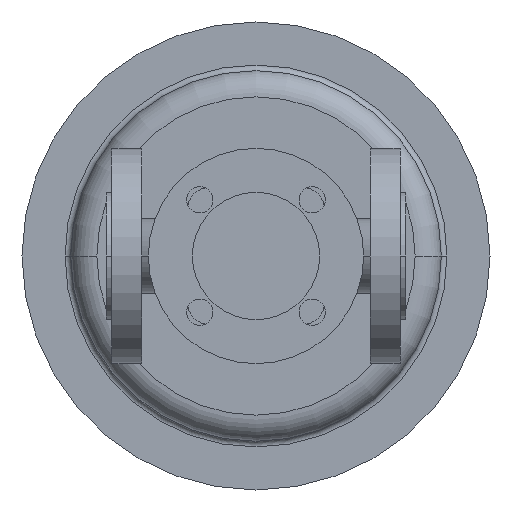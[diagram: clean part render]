
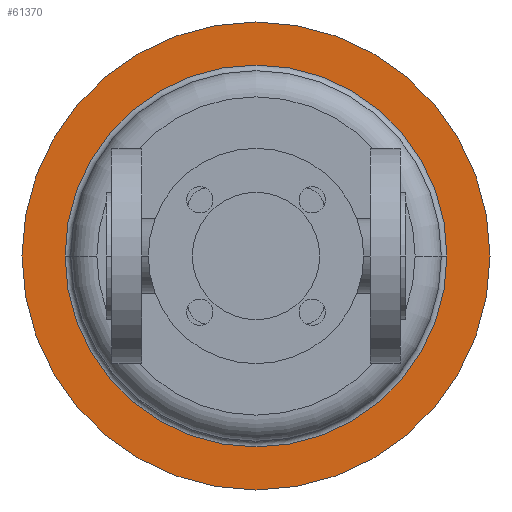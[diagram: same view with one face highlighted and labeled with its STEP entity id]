
A CAD part, front view. The second image highlights one B-rep face of the part: STEP entity #61370.
In plain terms, the highlighted planar face has unit normal (0, -1, 0).
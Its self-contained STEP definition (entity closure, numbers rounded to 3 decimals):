
#47450=CARTESIAN_POINT('',(-45.,572.,0.));
#47460=VERTEX_POINT('',#47450);
#47620=CARTESIAN_POINT('',(205.,572.,0.));
#47630=VERTEX_POINT('',#47620);
#47660=CARTESIAN_POINT('',(80.,572.,0.));
#47670=DIRECTION('',(0.,1.,0.));
#47680=DIRECTION('',(1.,0.,0.));
#47690=AXIS2_PLACEMENT_3D('',#47660,#47670,#47680);
#47700=CIRCLE('',#47690,125.);
#47710=EDGE_CURVE('',#47460,#47630,#47700,.T.);
#47880=CARTESIAN_POINT('',(182.,572.,0.));
#47890=VERTEX_POINT('',#47880);
#47920=CARTESIAN_POINT('',(80.,572.,0.));
#47930=DIRECTION('',(0.,1.,0.));
#47940=DIRECTION('',(1.,0.,0.));
#47950=AXIS2_PLACEMENT_3D('',#47920,#47930,#47940);
#47960=CIRCLE('',#47950,102.);
#47970=CARTESIAN_POINT('',(-22.,572.,0.));
#47980=VERTEX_POINT('',#47970);
#47990=EDGE_CURVE('',#47890,#47980,#47960,.T.);
#61220=CARTESIAN_POINT('',(193.5,572.,0.));
#61230=DIRECTION('',(0.,-1.,0.));
#61240=DIRECTION('',(-1.,0.,0.));
#61250=AXIS2_PLACEMENT_3D('',#61220,#61230,#61240);
#61260=PLANE('',#61250);
#61270=EDGE_CURVE('',#47630,#47460,#47700,.T.);
#61280=ORIENTED_EDGE('',*,*,#61270,.F.);
#61290=ORIENTED_EDGE('',*,*,#47710,.F.);
#61300=EDGE_LOOP('',(#61290,#61280));
#61310=FACE_OUTER_BOUND('',#61300,.T.);
#61320=ORIENTED_EDGE('',*,*,#47990,.T.);
#61330=EDGE_CURVE('',#47980,#47890,#47960,.T.);
#61340=ORIENTED_EDGE('',*,*,#61330,.T.);
#61350=EDGE_LOOP('',(#61340,#61320));
#61360=FACE_BOUND('',#61350,.T.);
#61370=ADVANCED_FACE('',(#61310,#61360),#61260,.T.);
